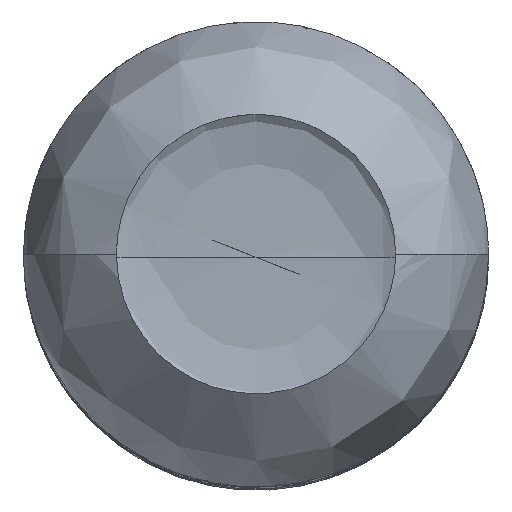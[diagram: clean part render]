
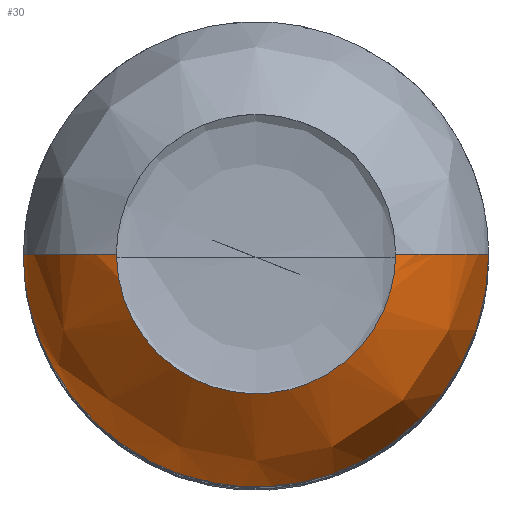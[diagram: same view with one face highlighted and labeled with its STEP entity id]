
A CAD part, top view. The second image highlights one B-rep face of the part: STEP entity #30.
In plain terms, the highlighted free-form (B-spline) face has degree [2, 2] with [3, 5] control points.
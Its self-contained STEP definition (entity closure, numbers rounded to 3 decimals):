
#30=ADVANCED_FACE('',(#46),#206,.T.);
#46=FACE_OUTER_BOUND('',#62,.T.);
#62=EDGE_LOOP('',(#108,#109,#110,#111));
#108=ORIENTED_EDGE('',*,*,#143,.T.);
#109=ORIENTED_EDGE('',*,*,#137,.F.);
#110=ORIENTED_EDGE('',*,*,#138,.F.);
#111=ORIENTED_EDGE('',*,*,#145,.F.);
#137=EDGE_CURVE('',#187,#192,#159,.T.);
#138=EDGE_CURVE('',#188,#187,#160,.T.);
#143=EDGE_CURVE('',#191,#192,#164,.T.);
#145=EDGE_CURVE('',#191,#188,#166,.T.);
#159=(
BOUNDED_CURVE()
B_SPLINE_CURVE(2,(#657,#658,#659,#660,#661),.UNSPECIFIED.,.F.,.F.)
B_SPLINE_CURVE_WITH_KNOTS((3,2,3),(-470.552,-352.914,
-235.276),.UNSPECIFIED.)
CURVE()
GEOMETRIC_REPRESENTATION_ITEM()
RATIONAL_B_SPLINE_CURVE((1.,0.707,1.,0.707,1.))
REPRESENTATION_ITEM('')
);
#160=(
BOUNDED_CURVE()
B_SPLINE_CURVE(2,(#662,#663,#664),.UNSPECIFIED.,.F.,.F.)
B_SPLINE_CURVE_WITH_KNOTS((3,3),(1773.468,1810.397),
 .UNSPECIFIED.)
CURVE()
GEOMETRIC_REPRESENTATION_ITEM()
RATIONAL_B_SPLINE_CURVE((1.,0.816,1.))
REPRESENTATION_ITEM('')
);
#164=(
BOUNDED_CURVE()
B_SPLINE_CURVE(2,(#684,#685,#686),.UNSPECIFIED.,.F.,.F.)
B_SPLINE_CURVE_WITH_KNOTS((3,3),(1773.468,1810.397),
 .UNSPECIFIED.)
CURVE()
GEOMETRIC_REPRESENTATION_ITEM()
RATIONAL_B_SPLINE_CURVE((1.,0.816,1.))
REPRESENTATION_ITEM('')
);
#166=(
BOUNDED_CURVE()
B_SPLINE_CURVE(2,(#692,#693,#694,#695,#696),.UNSPECIFIED.,.F.,.F.)
B_SPLINE_CURVE_WITH_KNOTS((3,2,3),(235.276,352.914,470.552),
 .UNSPECIFIED.)
CURVE()
GEOMETRIC_REPRESENTATION_ITEM()
RATIONAL_B_SPLINE_CURVE((1.,0.707,1.,0.707,1.))
REPRESENTATION_ITEM('')
);
#187=VERTEX_POINT('',#641);
#188=VERTEX_POINT('',#642);
#191=VERTEX_POINT('',#645);
#192=VERTEX_POINT('',#646);
#206=(
BOUNDED_SURFACE()
B_SPLINE_SURFACE(2,2,((#535,#536,#537,#538,#539),(#540,#541,#542,#543,#544),
(#545,#546,#547,#548,#549)),.UNSPECIFIED.,.F.,.F.,.F.)
B_SPLINE_SURFACE_WITH_KNOTS((3,3),(3,2,3),(1773.468,1810.397),
(235.276,352.914,470.552),.UNSPECIFIED.)
GEOMETRIC_REPRESENTATION_ITEM()
RATIONAL_B_SPLINE_SURFACE(((1.,0.707,1.,0.707,1.),
(0.816,0.577,0.816,0.577,
0.816),(1.,0.707,1.,0.707,1.)))
REPRESENTATION_ITEM('')
SURFACE()
);
#535=CARTESIAN_POINT('',(-12413.759,2135.238,448.284));
#536=CARTESIAN_POINT('',(-12413.759,2105.238,448.284));
#537=CARTESIAN_POINT('',(-12383.759,2105.238,448.284));
#538=CARTESIAN_POINT('',(-12353.759,2105.238,448.284));
#539=CARTESIAN_POINT('',(-12353.759,2135.238,448.284));
#540=CARTESIAN_POINT('',(-12433.759,2135.238,441.213));
#541=CARTESIAN_POINT('',(-12433.759,2085.238,441.213));
#542=CARTESIAN_POINT('',(-12383.759,2085.238,441.213));
#543=CARTESIAN_POINT('',(-12333.759,2085.238,441.213));
#544=CARTESIAN_POINT('',(-12333.759,2135.238,441.213));
#545=CARTESIAN_POINT('',(-12433.759,2135.238,420.));
#546=CARTESIAN_POINT('',(-12433.759,2085.238,420.));
#547=CARTESIAN_POINT('',(-12383.759,2085.238,420.));
#548=CARTESIAN_POINT('',(-12333.759,2085.238,420.));
#549=CARTESIAN_POINT('',(-12333.759,2135.238,420.));
#641=CARTESIAN_POINT('',(-12333.759,2135.238,420.));
#642=CARTESIAN_POINT('',(-12353.759,2135.238,448.284));
#645=CARTESIAN_POINT('',(-12413.759,2135.238,448.284));
#646=CARTESIAN_POINT('',(-12433.759,2135.238,420.));
#657=CARTESIAN_POINT('',(-12333.759,2135.238,420.));
#658=CARTESIAN_POINT('',(-12333.759,2085.238,420.));
#659=CARTESIAN_POINT('',(-12383.759,2085.238,420.));
#660=CARTESIAN_POINT('',(-12433.759,2085.238,420.));
#661=CARTESIAN_POINT('',(-12433.759,2135.238,420.));
#662=CARTESIAN_POINT('',(-12353.759,2135.238,448.284));
#663=CARTESIAN_POINT('',(-12333.759,2135.238,441.213));
#664=CARTESIAN_POINT('',(-12333.759,2135.238,420.));
#684=CARTESIAN_POINT('',(-12413.759,2135.238,448.284));
#685=CARTESIAN_POINT('',(-12433.759,2135.238,441.213));
#686=CARTESIAN_POINT('',(-12433.759,2135.238,420.));
#692=CARTESIAN_POINT('',(-12413.759,2135.238,448.284));
#693=CARTESIAN_POINT('',(-12413.759,2105.238,448.284));
#694=CARTESIAN_POINT('',(-12383.759,2105.238,448.284));
#695=CARTESIAN_POINT('',(-12353.759,2105.238,448.284));
#696=CARTESIAN_POINT('',(-12353.759,2135.238,448.284));
